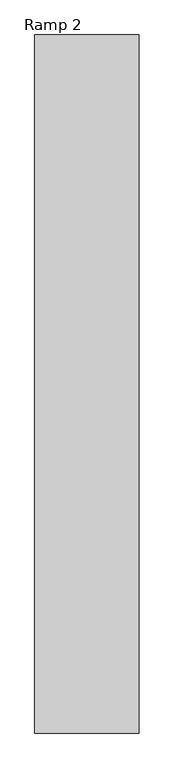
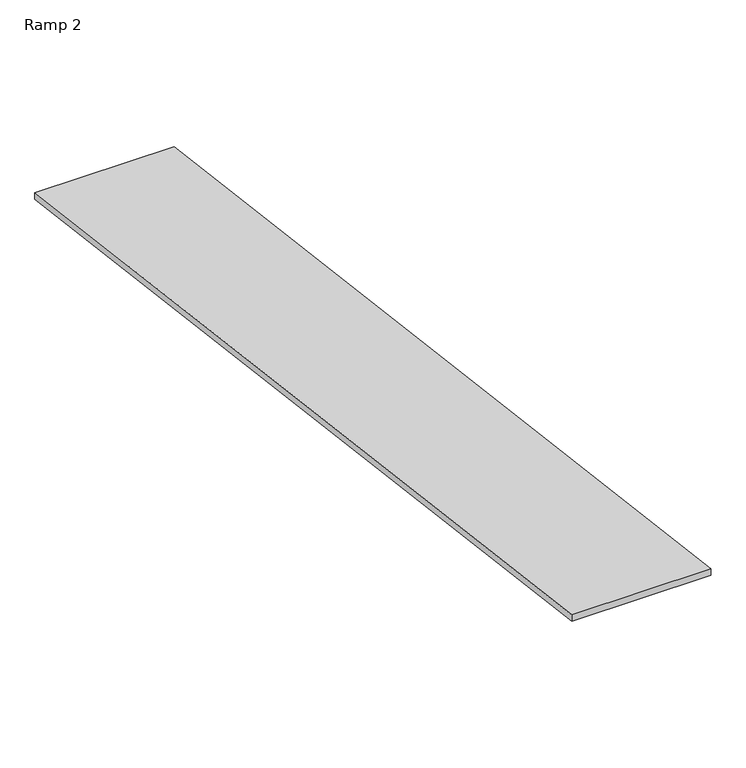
"""IFC4 building model written with IfcOpenShell, lengths in millimetres: ramp geometry, Ramp 2."""

from ifc_helpers import new_model, si_unit, frame, origin, place, context, project, spatial, polyline, outline, extrude, source, transform, mapped, element, save


def ramp_2_5e5b59bc(model_context):
    return source(origin(), model_context, "Body", "SweptSolid", [
        extrude(outline(polyline([(-12032.9438544, -304.8), (7994.9561456, -2844.8), (7994.9561456, -2996.0014951), (-12032.9438544, -456.0014951), (-12032.9438544, -304.8)])), frame((5218.8244069, 0.0, 0.0), z_axis=(1.0, 0.0, 0.0), x_axis=(0.0, 1.0, 0.0)), (0.0, 0.0, 1.0), 2997.2),
    ])


if __name__ == "__main__":
    model = new_model("IFC4")
    model_context = context("Model", 3, world=origin())
    ifc_project = project(units=[si_unit("LENGTHUNIT", "METRE", prefix="MILLI")], contexts=[model_context])
    site = spatial("IfcSite", under=ifc_project)
    building = spatial("IfcBuilding", under=site)
    placement = place(None, origin())
    ramp_2_shape = ramp_2_5e5b59bc(model_context)
    element("IfcRamp", 1, ObjectType="Ramp 2", at=placement, inside=building, context=model_context, shape_type="MappedRepresentation", body=[
        mapped(ramp_2_shape, transform((0.0, 0.0, 0.0), x_axis=(1.0, 0.0, 0.0), y_axis=(0.0, 1.0, 0.0), z_axis=(0.0, 0.0, 1.0))),
    ])
    save(model, "model.ifc")
